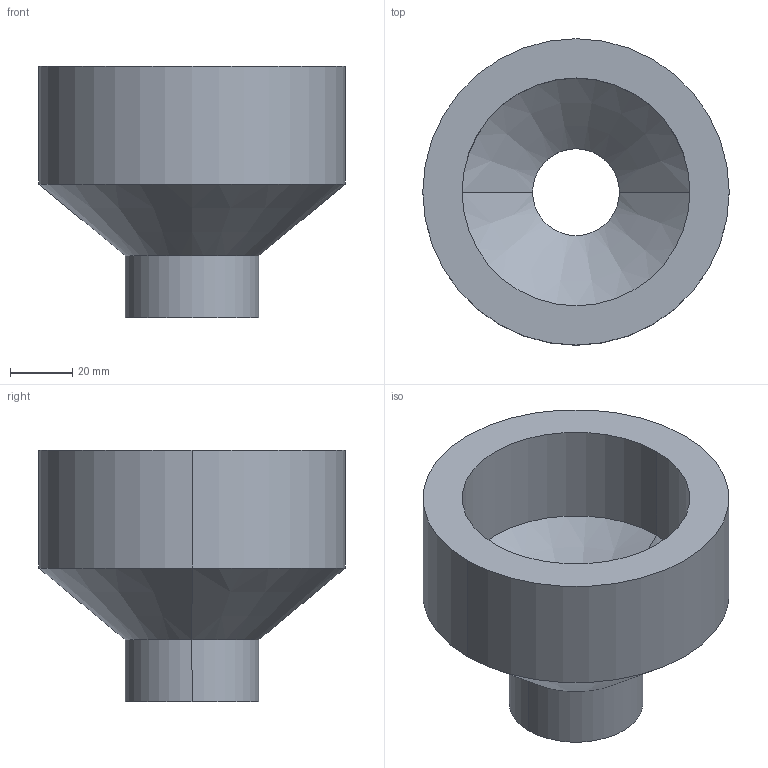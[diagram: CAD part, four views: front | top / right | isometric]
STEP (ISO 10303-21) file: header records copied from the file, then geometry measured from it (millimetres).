
FILE_DESCRIPTION (( 'STEP AP203' ), '1' );
FILE_NAME ('PMR16 FADO.STEP', '2022-08-23T10:46:32', ( '' ), ( '' ), 'SwSTEP 2.0', 'SolidWorks 2021', '' );
FILE_SCHEMA (( 'CONFIG_CONTROL_DESIGN' ));
Length unit declared in the file: millimetre
Products named in the file (1): PMR16 FADO
Bounding box: 98.8 x 98.8 x 81.15 mm (x, y, z)
Volume: 213162.9 mm3; surface area: 41975 mm2
Topology: 1 solids, 1 shells, 17 faces, 34 edges, 20 vertices
Faces by surface type: cylinder 10, cone 4, plane 3
Entity records: 525 total; most frequent: DIRECTION 90, CARTESIAN_POINT 72, ORIENTED_EDGE 68, AXIS2_PLACEMENT_3D 38, EDGE_CURVE 34, CIRCLE 20, EDGE_LOOP 20, VERTEX_POINT 20
